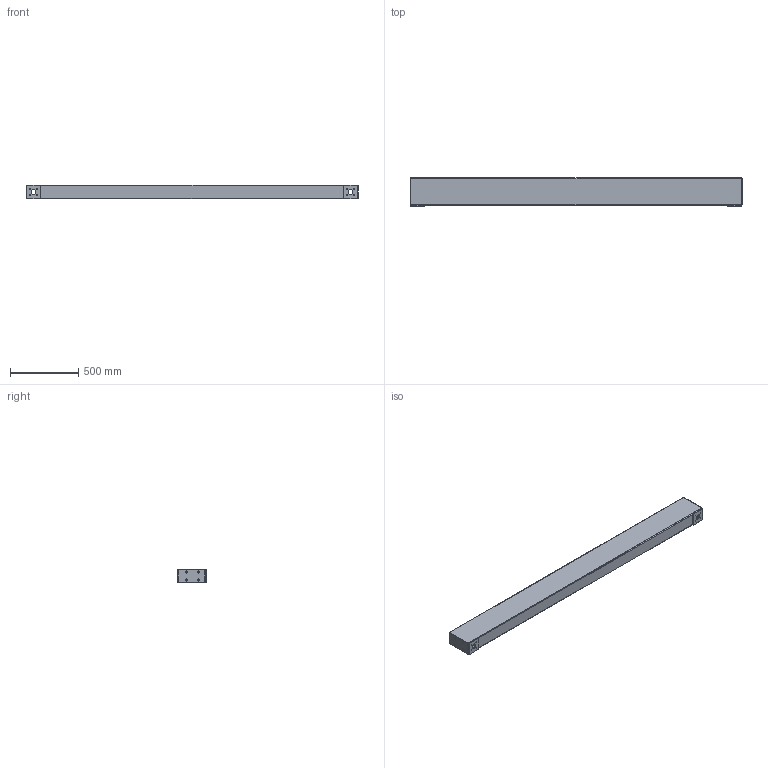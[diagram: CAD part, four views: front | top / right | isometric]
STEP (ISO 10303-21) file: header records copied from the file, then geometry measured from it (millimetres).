
FILE_DESCRIPTION(/* description */ (''),/* implementation_level */ '2;1');
FILE_NAME(/* name */ '2020TOMO-TELAIO-ASSY.00_v12-Part_02.stp',/* time_stamp */ '2022-05-16T13:12:19+02:00',/* author */ (''),/* organization */ (''),/* preprocessor_version */ 'ST-DEVELOPER v18.102',/* originating_system */ 'SIEMENS PLM Software NX 2000',/* authorisation */ '');
FILE_SCHEMA (('AUTOMOTIVE_DESIGN { 1 0 10303 214 3 1 1 1 }'));
Length unit declared in the file: millimetre
Products named in the file (1): turc3144724Fyy45
Bounding box: 2430 x 205 x 100 mm (x, y, z)
Volume: 4475529.4 mm3; surface area: 2931902.1 mm2
Topology: 13 solids, 13 shells, 136 faces, 374 edges, 264 vertices
Faces by surface type: plane 98, cylinder 38
Full cylindrical faces by diameter (mm): 6.8 x8, 8.5 x8, 10.5 x8, 36 x6
Entity records: 4330 total; most frequent: DIRECTION 714, CARTESIAN_POINT 689, ORIENTED_EDGE 600, EDGE_CURVE 300, AXIS2_PLACEMENT_3D 245, EDGE_LOOP 228, LINE 224, VECTOR 224
